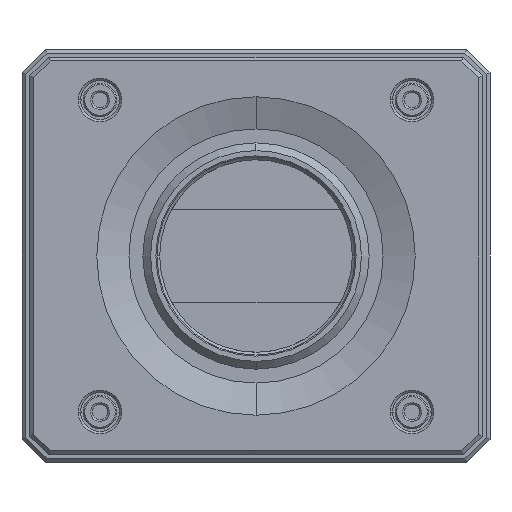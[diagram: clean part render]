
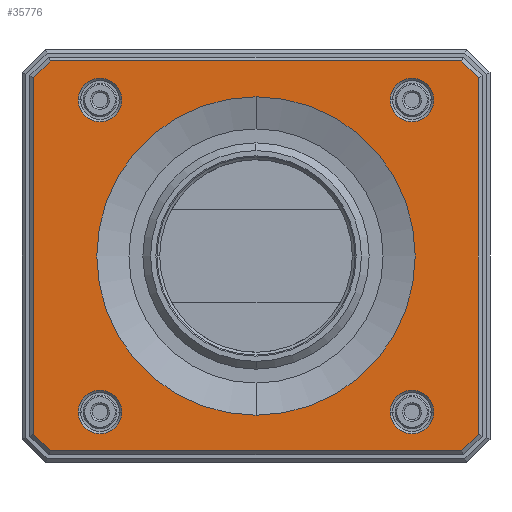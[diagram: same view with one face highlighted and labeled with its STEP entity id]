
A CAD part, front view. The second image highlights one B-rep face of the part: STEP entity #35776.
In plain terms, the highlighted planar face has unit normal (0, -1, 0).
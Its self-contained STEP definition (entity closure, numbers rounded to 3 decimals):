
#6282=DIRECTION('',(1.,0.,0.));
#6283=VECTOR('',#6282,52.757);
#6284=CARTESIAN_POINT('',(-26.379,7.1,25.));
#6285=LINE('',#6284,#6283);
#6286=DIRECTION('',(0.707,0.,-0.707));
#6287=VECTOR('',#6286,3.);
#6288=CARTESIAN_POINT('',(26.379,7.1,25.));
#6289=LINE('',#6288,#6287);
#6290=DIRECTION('',(-0.707,0.,-0.707));
#6291=VECTOR('',#6290,3.);
#6292=CARTESIAN_POINT('',(28.5,7.1,-22.879));
#6293=LINE('',#6292,#6291);
#6294=DIRECTION('',(-0.707,0.,0.707));
#6295=VECTOR('',#6294,3.);
#6296=CARTESIAN_POINT('',(-26.379,7.1,-25.));
#6297=LINE('',#6296,#6295);
#6298=DIRECTION('',(0.707,0.,0.707));
#6299=VECTOR('',#6298,3.);
#6300=CARTESIAN_POINT('',(-28.5,7.1,22.879));
#6301=LINE('',#6300,#6299);
#6302=CARTESIAN_POINT('',(0.,7.1,0.));
#6303=DIRECTION('',(0.,-1.,0.));
#6304=DIRECTION('',(0.,0.,-1.));
#6305=AXIS2_PLACEMENT_3D('',#6302,#6303,#6304);
#6307=CARTESIAN_POINT('',(0.,7.1,0.));
#6308=DIRECTION('',(0.,-1.,0.));
#6309=DIRECTION('',(0.,0.,1.));
#6310=AXIS2_PLACEMENT_3D('',#6307,#6308,#6309);
#6312=CARTESIAN_POINT('',(-20.,7.1,20.));
#6313=DIRECTION('',(0.,-1.,0.));
#6314=DIRECTION('',(1.,0.,0.));
#6315=AXIS2_PLACEMENT_3D('',#6312,#6313,#6314);
#6317=CARTESIAN_POINT('',(-20.,7.1,20.));
#6318=DIRECTION('',(0.,-1.,0.));
#6319=DIRECTION('',(-1.,0.,0.));
#6320=AXIS2_PLACEMENT_3D('',#6317,#6318,#6319);
#6322=CARTESIAN_POINT('',(20.,7.1,20.));
#6323=DIRECTION('',(0.,-1.,0.));
#6324=DIRECTION('',(-1.,0.,0.));
#6325=AXIS2_PLACEMENT_3D('',#6322,#6323,#6324);
#6327=CARTESIAN_POINT('',(20.,7.1,20.));
#6328=DIRECTION('',(0.,-1.,0.));
#6329=DIRECTION('',(1.,0.,0.));
#6330=AXIS2_PLACEMENT_3D('',#6327,#6328,#6329);
#6332=CARTESIAN_POINT('',(-20.,7.1,-20.));
#6333=DIRECTION('',(0.,-1.,0.));
#6334=DIRECTION('',(1.,0.,0.));
#6335=AXIS2_PLACEMENT_3D('',#6332,#6333,#6334);
#6337=CARTESIAN_POINT('',(-20.,7.1,-20.));
#6338=DIRECTION('',(0.,-1.,0.));
#6339=DIRECTION('',(-1.,0.,0.));
#6340=AXIS2_PLACEMENT_3D('',#6337,#6338,#6339);
#6342=CARTESIAN_POINT('',(20.,7.1,-20.));
#6343=DIRECTION('',(0.,-1.,0.));
#6344=DIRECTION('',(-1.,0.,0.));
#6345=AXIS2_PLACEMENT_3D('',#6342,#6343,#6344);
#6347=CARTESIAN_POINT('',(20.,7.1,-20.));
#6348=DIRECTION('',(0.,-1.,0.));
#6349=DIRECTION('',(1.,0.,0.));
#6350=AXIS2_PLACEMENT_3D('',#6347,#6348,#6349);
#27835=DIRECTION('',(0.,0.,-1.));
#27836=VECTOR('',#27835,45.757);
#27837=CARTESIAN_POINT('',(-28.5,7.1,22.879));
#27838=LINE('',#27837,#27836);
#27851=DIRECTION('',(1.,0.,0.));
#27852=VECTOR('',#27851,52.757);
#27853=CARTESIAN_POINT('',(-26.379,7.1,-25.));
#27854=LINE('',#27853,#27852);
#27867=DIRECTION('',(0.,0.,-1.));
#27868=VECTOR('',#27867,45.757);
#27869=CARTESIAN_POINT('',(28.5,7.1,22.879));
#27870=LINE('',#27869,#27868);
#29501=CARTESIAN_POINT('',(-26.379,7.1,25.));
#29502=CARTESIAN_POINT('',(26.379,7.1,25.));
#29503=VERTEX_POINT('',#29501);
#29504=VERTEX_POINT('',#29502);
#29505=CARTESIAN_POINT('',(-28.5,7.1,22.879));
#29506=VERTEX_POINT('',#29505);
#29507=CARTESIAN_POINT('',(-28.5,7.1,-22.879));
#29508=VERTEX_POINT('',#29507);
#29509=CARTESIAN_POINT('',(-26.379,7.1,-25.));
#29510=VERTEX_POINT('',#29509);
#29511=CARTESIAN_POINT('',(26.379,7.1,-25.));
#29512=VERTEX_POINT('',#29511);
#29513=CARTESIAN_POINT('',(28.5,7.1,-22.879));
#29514=VERTEX_POINT('',#29513);
#29515=CARTESIAN_POINT('',(28.5,7.1,22.879));
#29516=VERTEX_POINT('',#29515);
#29517=CARTESIAN_POINT('',(0.,7.1,
-20.415));
#29518=CARTESIAN_POINT('',(0.,7.1,
20.415));
#29519=VERTEX_POINT('',#29517);
#29520=VERTEX_POINT('',#29518);
#29521=CARTESIAN_POINT('',(-17.2,7.1,
20.));
#29522=CARTESIAN_POINT('',(-22.8,7.1,
20.));
#29523=VERTEX_POINT('',#29521);
#29524=VERTEX_POINT('',#29522);
#29525=CARTESIAN_POINT('',(17.2,7.1,20.));
#29526=CARTESIAN_POINT('',(22.8,7.1,20.));
#29527=VERTEX_POINT('',#29525);
#29528=VERTEX_POINT('',#29526);
#29529=CARTESIAN_POINT('',(-17.2,7.1,
-20.));
#29530=CARTESIAN_POINT('',(-22.8,7.1,
-20.));
#29531=VERTEX_POINT('',#29529);
#29532=VERTEX_POINT('',#29530);
#29533=CARTESIAN_POINT('',(17.2,7.1,
-20.));
#29534=CARTESIAN_POINT('',(22.8,7.1,
-20.));
#29535=VERTEX_POINT('',#29533);
#29536=VERTEX_POINT('',#29534);
#35724=CARTESIAN_POINT('',(0.,7.1,0.));
#35725=DIRECTION('',(0.,1.,0.));
#35726=DIRECTION('',(1.,0.,0.));
#35727=AXIS2_PLACEMENT_3D('',#35724,#35725,#35726);
#35728=PLANE('',#35727);
#35729=ORIENTED_EDGE('',*,*,#35714,.T.);
#35731=ORIENTED_EDGE('',*,*,#35730,.T.);
#35733=ORIENTED_EDGE('',*,*,#35732,.T.);
#35735=ORIENTED_EDGE('',*,*,#35734,.T.);
#35737=ORIENTED_EDGE('',*,*,#35736,.F.);
#35739=ORIENTED_EDGE('',*,*,#35738,.T.);
#35741=ORIENTED_EDGE('',*,*,#35740,.F.);
#35743=ORIENTED_EDGE('',*,*,#35742,.T.);
#35744=EDGE_LOOP('',(#35729,#35731,#35733,#35735,#35737,#35739,#35741,#35743));
#35745=FACE_OUTER_BOUND('',#35744,.F.);
#35747=ORIENTED_EDGE('',*,*,#35746,.T.);
#35749=ORIENTED_EDGE('',*,*,#35748,.T.);
#35750=EDGE_LOOP('',(#35747,#35749));
#35751=FACE_BOUND('',#35750,.F.);
#35753=ORIENTED_EDGE('',*,*,#35752,.T.);
#35755=ORIENTED_EDGE('',*,*,#35754,.T.);
#35756=EDGE_LOOP('',(#35753,#35755));
#35757=FACE_BOUND('',#35756,.F.);
#35759=ORIENTED_EDGE('',*,*,#35758,.T.);
#35761=ORIENTED_EDGE('',*,*,#35760,.T.);
#35762=EDGE_LOOP('',(#35759,#35761));
#35763=FACE_BOUND('',#35762,.F.);
#35765=ORIENTED_EDGE('',*,*,#35764,.T.);
#35767=ORIENTED_EDGE('',*,*,#35766,.T.);
#35768=EDGE_LOOP('',(#35765,#35767));
#35769=FACE_BOUND('',#35768,.F.);
#35771=ORIENTED_EDGE('',*,*,#35770,.T.);
#35773=ORIENTED_EDGE('',*,*,#35772,.T.);
#35774=EDGE_LOOP('',(#35771,#35773));
#35775=FACE_BOUND('',#35774,.F.);
#35776=ADVANCED_FACE('',(#35745,#35751,#35757,#35763,#35769,#35775),#35728,.F.);
#6306=CIRCLE('',#6305,20.415);
#6311=CIRCLE('',#6310,20.415);
#6316=CIRCLE('',#6315,2.8);
#6321=CIRCLE('',#6320,2.8);
#6326=CIRCLE('',#6325,2.8);
#6331=CIRCLE('',#6330,2.8);
#6336=CIRCLE('',#6335,2.8);
#6341=CIRCLE('',#6340,2.8);
#6346=CIRCLE('',#6345,2.8);
#6351=CIRCLE('',#6350,2.8);
#35714=EDGE_CURVE('',#29503,#29504,#6285,.T.);
#35730=EDGE_CURVE('',#29504,#29516,#6289,.T.);
#35732=EDGE_CURVE('',#29516,#29514,#27870,.T.);
#35734=EDGE_CURVE('',#29514,#29512,#6293,.T.);
#35736=EDGE_CURVE('',#29510,#29512,#27854,.T.);
#35738=EDGE_CURVE('',#29510,#29508,#6297,.T.);
#35740=EDGE_CURVE('',#29506,#29508,#27838,.T.);
#35742=EDGE_CURVE('',#29506,#29503,#6301,.T.);
#35746=EDGE_CURVE('',#29519,#29520,#6306,.T.);
#35748=EDGE_CURVE('',#29520,#29519,#6311,.T.);
#35752=EDGE_CURVE('',#29523,#29524,#6316,.T.);
#35754=EDGE_CURVE('',#29524,#29523,#6321,.T.);
#35758=EDGE_CURVE('',#29527,#29528,#6326,.T.);
#35760=EDGE_CURVE('',#29528,#29527,#6331,.T.);
#35764=EDGE_CURVE('',#29531,#29532,#6336,.T.);
#35766=EDGE_CURVE('',#29532,#29531,#6341,.T.);
#35770=EDGE_CURVE('',#29535,#29536,#6346,.T.);
#35772=EDGE_CURVE('',#29536,#29535,#6351,.T.);
